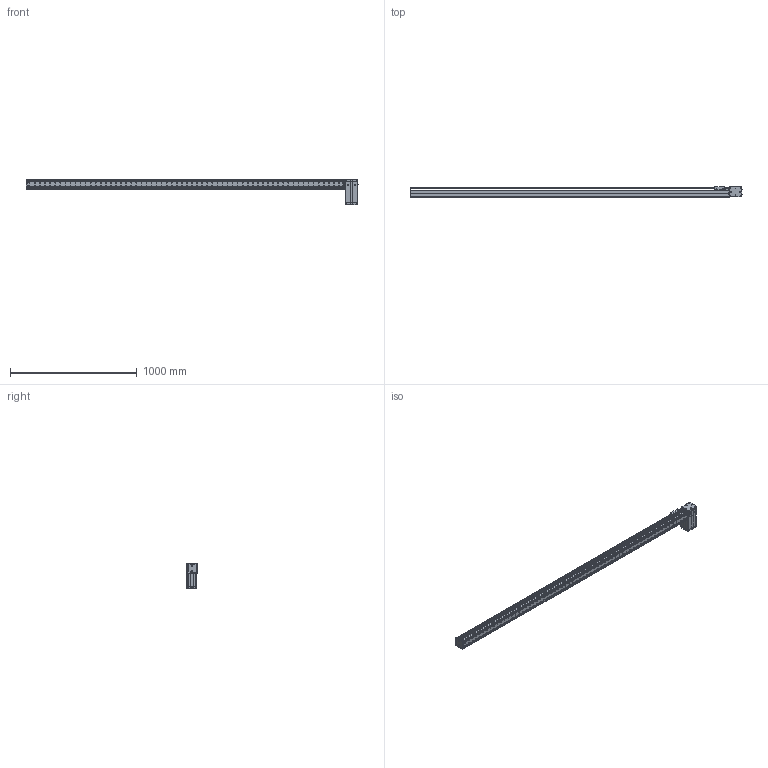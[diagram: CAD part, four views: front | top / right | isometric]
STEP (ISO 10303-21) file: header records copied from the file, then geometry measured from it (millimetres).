
FILE_DESCRIPTION((''),'2;1');
FILE_NAME('BE10_-BL-S_N-P5_IGS_PRT','2017-06-18T',(' '),(''),'PRO/ENGINEER BY PARAMETRIC TECHNOLOGY CORPORATION, 2015030','PRO/ENGINEER BY PARAMETRIC TECHNOLOGY CORPORATION, 2015030','');
FILE_SCHEMA(('CONFIG_CONTROL_DESIGN'));
Products named in the file (1): BE10_-BL-S_N-P5_IGS_PRT
Bounding box: 2620.8 x 85 x 200.22 mm (x, y, z)
Volume: 3308796.8 mm3; surface area: 2338554.7 mm2
Topology: 5 solids, 203 shells, 2421 faces, 6658 edges, 4451 vertices
Faces by surface type: cylinder 1183, plane 1079, cone 103, sphere 28, torus 25, bspline 3
Entity records: 79594 total; most frequent: CARTESIAN_POINT 16318, DIRECTION 13503, ORIENTED_EDGE 12448, EDGE_CURVE 6602, AXIS2_PLACEMENT_3D 4986, VERTEX_POINT 4450, VECTOR 3531, LINE 3531
